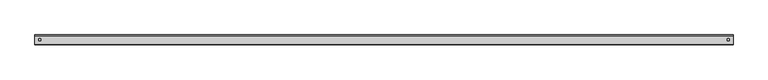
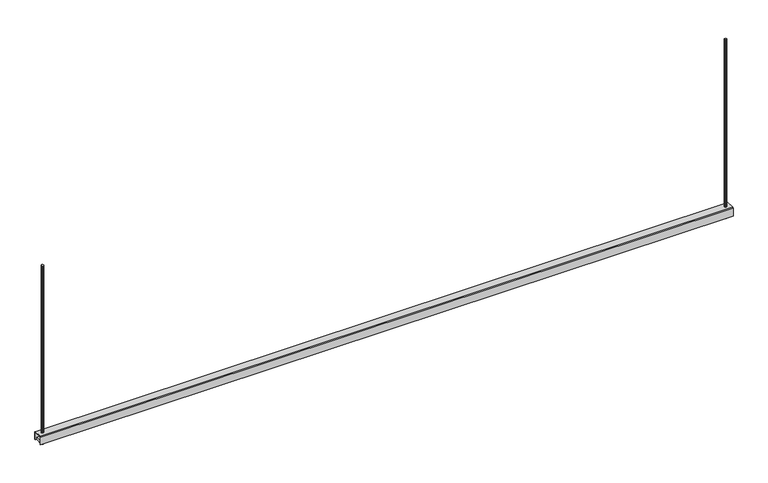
"""IFC4 building model written with IfcOpenShell, lengths in millimetres: proxy geometry, Beared-Hanger : BearedHanger."""

from ifc_helpers import new_model, si_unit, frame, origin, place, context, project, spatial, polyline, outline, extrude, source, transform, mapped, element, save


def mechanical_equipment_bcc856de(model_context):
    return source(origin(), model_context, "Body", "SweptSolid", [
        extrude(outline(polyline([(1406.0561628, -17.3962402), (1406.0561628, 16.7883301), (1435.8730573, 16.7883301), (1435.8730573, -17.3962402), (1406.0561628, -17.3962402)])), frame((0.0, 0.0, -772.7359535), z_axis=(0.0, 0.0, 1.0), x_axis=(1.0, 0.0, 0.0)), (0.0, 0.0, 1.0), 10.0),
        extrude(outline(polyline([(1420.96461, 5.0), (1424.4997663, 3.5351562), (1425.9652204, 0.0), (1424.4997663, -3.5351563), (1420.96461, -5.0), (1417.4294538, -3.5351563), (1415.96461, 0.0), (1417.4294538, 3.5351562), (1420.96461, 5.0)])), frame((0.0, 0.0, -786.3205482), z_axis=(0.0, 0.0, 1.0), x_axis=(1.0, 0.0, 0.0)), (0.0, 0.0, 1.0), 786.3205482),
        extrude(outline(polyline([(-1406.0561628, 16.7883301), (-1406.0561628, -17.3962402), (-1435.8730573, -17.3962402), (-1435.8730573, 16.7883301), (-1406.0561628, 16.7883301)])), frame((0.0, 0.0, -772.7359535), z_axis=(0.0, 0.0, 1.0), x_axis=(1.0, 0.0, 0.0)), (0.0, 0.0, 1.0), 10.0),
        extrude(outline(polyline([(-1420.96461, 5.0), (-1417.4294538, 3.5351563), (-1415.96461, 0.0), (-1417.4294538, -3.5351562), (-1420.96461, -5.0), (-1424.4997663, -3.5351562), (-1425.9652204, 0.0), (-1424.4997663, 3.5351563), (-1420.96461, 5.0)])), frame((0.0, 0.0, -786.3205482), z_axis=(0.0, 0.0, 1.0), x_axis=(1.0, 0.0, 0.0)), (0.0, 0.0, 1.0), 786.3205482),
        extrude(outline(polyline([(-17.8259277, -736.3205482), (17.1740723, -736.3205482), (19.6740723, -738.820243), (19.6740723, -772.7359535), (16.7883301, -772.7359535), (16.7883301, -739.3204261), (-17.3962402, -739.3204261), (-17.3962402, -772.7359535), (-20.3259277, -772.7359535), (-20.3259277, -738.820243), (-17.8259277, -736.3205482)])), frame((-1440.8398332, 0.0, 0.0), z_axis=(1.0, 0.0, 0.0), x_axis=(0.0, 1.0, 0.0)), (0.0, 0.0, 1.0), 2881.6796665),
    ])


if __name__ == "__main__":
    model = new_model("IFC4")
    model_context = context("Model", 3, world=origin())
    ifc_project = project(units=[si_unit("LENGTHUNIT", "METRE", prefix="MILLI")], contexts=[model_context])
    site = spatial("IfcSite", under=ifc_project)
    building = spatial("IfcBuilding", under=site)
    placement = place(None, origin())
    mechanical_equipment_shape = mechanical_equipment_bcc856de(model_context)
    element("IfcBuildingElementProxy", 1, Name="Beared-Hanger : BearedHanger", ObjectType="Beared-Hanger : BearedHanger", at=placement, inside=building, context=model_context, shape_type="MappedRepresentation", body=[
        mapped(mechanical_equipment_shape, transform((0.0, 0.0, 0.0), x_axis=(1.0, 0.0, 0.0), y_axis=(0.0, 1.0, 0.0), z_axis=(0.0, 0.0, 1.0))),
    ])
    save(model, "model.ifc")
